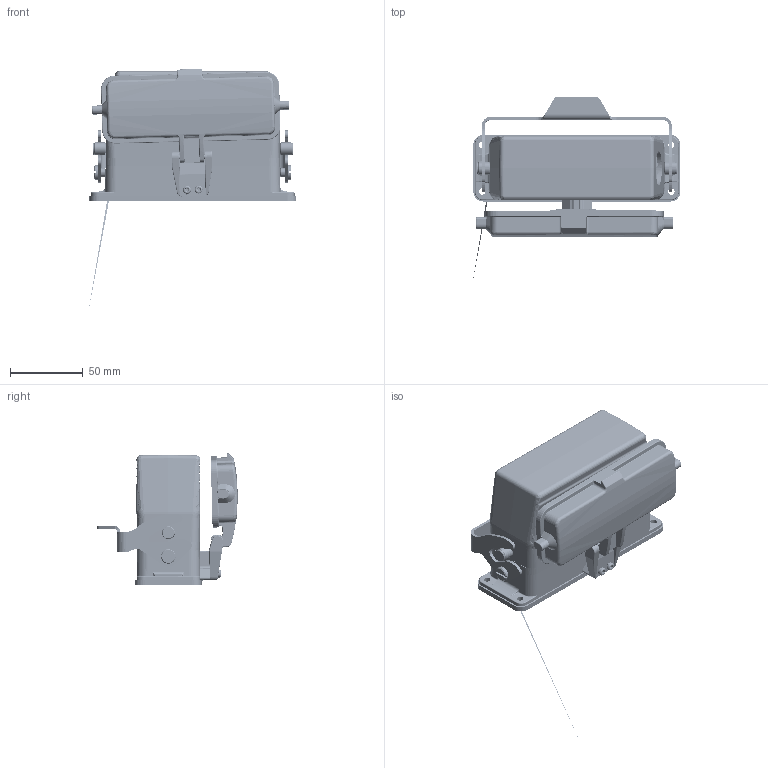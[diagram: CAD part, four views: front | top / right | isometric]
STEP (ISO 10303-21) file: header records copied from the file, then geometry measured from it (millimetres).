
FILE_DESCRIPTION (( 'STEP AP214' ), '1' );
FILE_NAME ('09024105125 HE、24针、开孔带盖底座、侧出M25套件.STEP', '2024-04-30T06:54:55', ( 'L' ), ( '' ), 'SwSTEP 2.0', 'SolidWorks 2019', '' );
FILE_SCHEMA (( 'AUTOMOTIVE_DESIGN' ));
Length unit declared in the file: millimetre
Products named in the file (5): HE-024-F.stp; 09024105125 HE、24针、开孔带盖底座、侧出M25套件; HE-024-M.stp; H24B-TS-RO-M25.step; H24B-AD-LB.step
Assembly tree (4 placements, depth 2):
  09024105125 HE、24针、开孔带盖底座、侧出M25套件
    HE-024-M.stp
    HE-024-F.stp
    H24B-AD-LB.step
    H24B-TS-RO-M25.step
Bounding box: 143.3 x 130.45 x 169.21 mm (x, y, z)
Volume: 278316.1 mm3; surface area: 181777.9 mm2
Topology: 4 solids, 15 shells, 7784 faces, 20551 edges, 12866 vertices
Faces by surface type: plane 3481, cylinder 1916, bspline 1588, cone 457, torus 250, sphere 92
Entity records: 635252 total; most frequent: CARTESIAN_POINT 429444, ORIENTED_EDGE 40778, DIRECTION 32848, EDGE_CURVE 20389, VERTEX_POINT 12810, VECTOR 11306, LINE 11306, AXIS2_PLACEMENT_3D 10771
